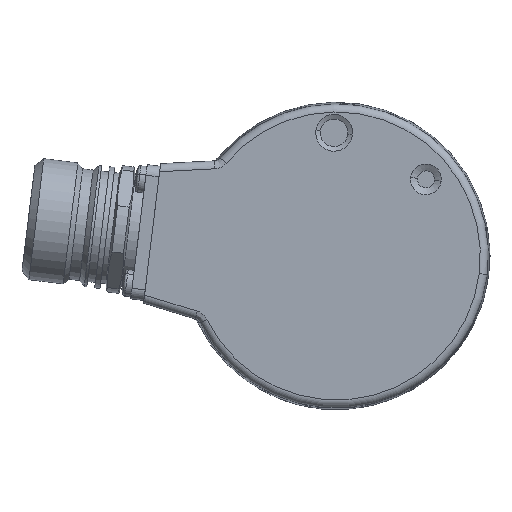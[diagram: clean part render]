
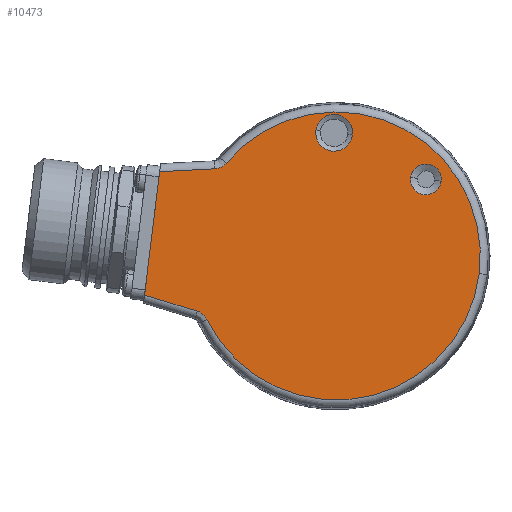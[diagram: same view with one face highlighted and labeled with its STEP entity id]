
A CAD part, left-side view. The second image highlights one B-rep face of the part: STEP entity #10473.
In plain terms, the highlighted planar face has unit normal (-1, 0, 0).
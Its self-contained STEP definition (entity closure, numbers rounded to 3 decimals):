
#4186 = VERTEX_POINT ( 'NONE', #6363 ) ;
#4374 = EDGE_CURVE ( 'NONE', #4375, #10634, #6939, .T. ) ;
#4375 = VERTEX_POINT ( 'NONE', #6934 ) ;
#4387 = VERTEX_POINT ( 'NONE', #7462 ) ;
#4388 = EDGE_CURVE ( 'NONE', #4387, #4186, #7461, .T. ) ;
#6363 = CARTESIAN_POINT ( 'NONE',  ( -19., -3.034, 22.824 ) ) ;
#6934 = CARTESIAN_POINT ( 'NONE',  ( -19., -26.97, -3.312 ) ) ;
#6935 = DIRECTION ( 'NONE',  ( 0., -0.993, -0.122 ) ) ;
#6936 = DIRECTION ( 'NONE',  ( -1., 0., 0. ) ) ;
#6937 = CARTESIAN_POINT ( 'NONE',  ( -19., 0., 0. ) ) ;
#6938 = AXIS2_PLACEMENT_3D ( 'NONE', #6937, #6936, #6935 ) ;
#6939 = CIRCLE ( 'NONE', #6938, 27.173 ) ;
#7457 = DIRECTION ( 'NONE',  ( 0., -0.993, -0.122 ) ) ;
#7458 = DIRECTION ( 'NONE',  ( 1., 0., 0. ) ) ;
#7459 = CARTESIAN_POINT ( 'NONE',  ( -19., 0.406, 23.246 ) ) ;
#7460 = AXIS2_PLACEMENT_3D ( 'NONE', #7459, #7458, #7457 ) ;
#7461 = CIRCLE ( 'NONE', #7460, 3.466 ) ;
#7462 = CARTESIAN_POINT ( 'NONE',  ( -19., 3.846, 23.669 ) ) ;
#10407 = VERTEX_POINT ( 'NONE', #13825 ) ;
#10432 = VERTEX_POINT ( 'NONE', #13906 ) ;
#10434 = EDGE_CURVE ( 'NONE', #10440, #10432, #13958, .T. ) ;
#10440 = VERTEX_POINT ( 'NONE', #13973 ) ;
#10444 = EDGE_CURVE ( 'NONE', #4186, #4387, #14011, .T. ) ;
#10445 = ORIENTED_EDGE ( 'NONE', *, *, #10457, .F. ) ;
#10446 = ORIENTED_EDGE ( 'NONE', *, *, #10434, .T. ) ;
#10447 = ORIENTED_EDGE ( 'NONE', *, *, #10472, .T. ) ;
#10448 = EDGE_LOOP ( 'NONE', ( #10449, #10450 ) ) ;
#10449 = ORIENTED_EDGE ( 'NONE', *, *, #4388, .T. ) ;
#10450 = ORIENTED_EDGE ( 'NONE', *, *, #10444, .T. ) ;
#10451 = EDGE_LOOP ( 'NONE', ( #10445, #10446, #10643, #10644, #10513, #10514, #10648 ) ) ;
#10457 = EDGE_CURVE ( 'NONE', #10440, #10634, #14002, .T. ) ;
#10472 = EDGE_CURVE ( 'NONE', #10623, #10407, #14060, .T. ) ;
#10473 = ADVANCED_FACE ( 'NONE', ( #14050, #14049, #14048 ), #14090, .F. ) ;
#10474 = EDGE_LOOP ( 'NONE', ( #10475, #10447 ) ) ;
#10475 = ORIENTED_EDGE ( 'NONE', *, *, #10612, .T. ) ;
#10513 = ORIENTED_EDGE ( 'NONE', *, *, #10693, .F. ) ;
#10514 = ORIENTED_EDGE ( 'NONE', *, *, #10575, .T. ) ;
#10562 = EDGE_CURVE ( 'NONE', #10563, #10432, #14476, .T. ) ;
#10563 = VERTEX_POINT ( 'NONE', #14525 ) ;
#10575 = EDGE_CURVE ( 'NONE', #10691, #4375, #14548, .T. ) ;
#10612 = EDGE_CURVE ( 'NONE', #10407, #10623, #14714, .T. ) ;
#10623 = VERTEX_POINT ( 'NONE', #14698 ) ;
#10634 = VERTEX_POINT ( 'NONE', #14768 ) ;
#10643 = ORIENTED_EDGE ( 'NONE', *, *, #10562, .F. ) ;
#10644 = ORIENTED_EDGE ( 'NONE', *, *, #10685, .T. ) ;
#10648 = ORIENTED_EDGE ( 'NONE', *, *, #4374, .T. ) ;
#10685 = EDGE_CURVE ( 'NONE', #10563, #10702, #14867, .T. ) ;
#10691 = VERTEX_POINT ( 'NONE', #14903 ) ;
#10693 = EDGE_CURVE ( 'NONE', #10691, #10702, #14902, .T. ) ;
#10702 = VERTEX_POINT ( 'NONE', #15111 ) ;
#13825 = CARTESIAN_POINT ( 'NONE',  ( -19., -14.042, 14.804 ) ) ;
#13906 = CARTESIAN_POINT ( 'NONE',  ( -19., 33.31, 15.905 ) ) ;
#13950 = DIRECTION ( 'NONE',  ( 0., 0.999, -0.052 ) ) ;
#13951 = VECTOR ( 'NONE', #13950, 1000. ) ;
#13952 = CARTESIAN_POINT ( 'NONE',  ( -19., 33.046, 15.919 ) ) ;
#13958 = LINE ( 'NONE', #13952, #13951 ) ;
#13973 = CARTESIAN_POINT ( 'NONE',  ( -19., 22.914, 16.45 ) ) ;
#13987 = CARTESIAN_POINT ( 'NONE',  ( -19., 20.777, 17.512 ) ) ;
#13988 = CARTESIAN_POINT ( 'NONE',  ( -19., 20.91, 17.355 ) ) ;
#13989 = CARTESIAN_POINT ( 'NONE',  ( -19., 21.056, 17.213 ) ) ;
#13990 = CARTESIAN_POINT ( 'NONE',  ( -19., 21.376, 16.962 ) ) ;
#13991 = CARTESIAN_POINT ( 'NONE',  ( -19., 21.552, 16.851 ) ) ;
#13992 = CARTESIAN_POINT ( 'NONE',  ( -19., 21.917, 16.669 ) ) ;
#13993 = CARTESIAN_POINT ( 'NONE',  ( -19., 22.108, 16.597 ) ) ;
#13994 = CARTESIAN_POINT ( 'NONE',  ( -19., 22.503, 16.493 ) ) ;
#13995 = CARTESIAN_POINT ( 'NONE',  ( -19., 22.708, 16.461 ) ) ;
#13996 = CARTESIAN_POINT ( 'NONE',  ( -19., 22.914, 16.45 ) ) ;
#14002 = B_SPLINE_CURVE_WITH_KNOTS ( 'NONE', 3,
 ( #13996, #13995, #13994, #13993, #13992, #13991, #13990, #13989, #13988, #13987 ),
 .UNSPECIFIED., .F., .F.,
 ( 4, 2, 2, 2, 4 ),
 ( 0., 0.001, 0.001, 0.002, 0.002 ),
 .UNSPECIFIED. ) ;
#14003 = DIRECTION ( 'NONE',  ( 0., -0.993, -0.122 ) ) ;
#14004 = DIRECTION ( 'NONE',  ( 1., 0., 0. ) ) ;
#14005 = CARTESIAN_POINT ( 'NONE',  ( -19., 0.406, 23.246 ) ) ;
#14006 = AXIS2_PLACEMENT_3D ( 'NONE', #14005, #14004, #14003 ) ;
#14011 = CIRCLE ( 'NONE', #14006, 3.466 ) ;
#14048 = FACE_OUTER_BOUND ( 'NONE', #10451, .T. ) ;
#14049 = FACE_BOUND ( 'NONE', #10448, .T. ) ;
#14050 = FACE_BOUND ( 'NONE', #10474, .T. ) ;
#14051 = DIRECTION ( 'NONE',  ( 0., -0.993, -0.122 ) ) ;
#14052 = DIRECTION ( 'NONE',  ( 1., 0., 0. ) ) ;
#14053 = CARTESIAN_POINT ( 'NONE',  ( -19., -16.919, 14.45 ) ) ;
#14054 = AXIS2_PLACEMENT_3D ( 'NONE', #14053, #14052, #14051 ) ;
#14060 = CIRCLE ( 'NONE', #14054, 2.899 ) ;
#14084 = DIRECTION ( 'NONE',  ( 0., -0.993, -0.122 ) ) ;
#14085 = DIRECTION ( 'NONE',  ( 1., 0., 0. ) ) ;
#14086 = CARTESIAN_POINT ( 'NONE',  ( -19., 0., 0. ) ) ;
#14087 = AXIS2_PLACEMENT_3D ( 'NONE', #14086, #14085, #14084 ) ;
#14090 = PLANE ( 'NONE',  #14087 ) ;
#14474 = VECTOR ( 'NONE', #14526, 1000. ) ;
#14475 = CARTESIAN_POINT ( 'NONE',  ( -19., 36.354, -8.886 ) ) ;
#14476 = LINE ( 'NONE', #14475, #14474 ) ;
#14525 = CARTESIAN_POINT ( 'NONE',  ( -19., 36.168, -7.374 ) ) ;
#14526 = DIRECTION ( 'NONE',  ( 0., -0.122, 0.993 ) ) ;
#14539 = DIRECTION ( 'NONE',  ( 0., -0.993, -0.122 ) ) ;
#14540 = DIRECTION ( 'NONE',  ( -1., 0., 0. ) ) ;
#14541 = CARTESIAN_POINT ( 'NONE',  ( -19., 0., 0. ) ) ;
#14542 = AXIS2_PLACEMENT_3D ( 'NONE', #14541, #14540, #14539 ) ;
#14548 = CIRCLE ( 'NONE', #14542, 27.173 ) ;
#14698 = CARTESIAN_POINT ( 'NONE',  ( -19., -19.796, 14.097 ) ) ;
#14710 = DIRECTION ( 'NONE',  ( 0., -0.993, -0.122 ) ) ;
#14711 = DIRECTION ( 'NONE',  ( 1., 0., 0. ) ) ;
#14712 = CARTESIAN_POINT ( 'NONE',  ( -19., -16.919, 14.45 ) ) ;
#14713 = AXIS2_PLACEMENT_3D ( 'NONE', #14712, #14711, #14710 ) ;
#14714 = CIRCLE ( 'NONE', #14713, 2.899 ) ;
#14768 = CARTESIAN_POINT ( 'NONE',  ( -19., 20.777, 17.512 ) ) ;
#14864 = DIRECTION ( 'NONE',  ( 0., -0.956, -0.292 ) ) ;
#14865 = VECTOR ( 'NONE', #14864, 1000. ) ;
#14866 = CARTESIAN_POINT ( 'NONE',  ( -19., 25.556, -10.618 ) ) ;
#14867 = LINE ( 'NONE', #14866, #14865 ) ;
#14902 = B_SPLINE_CURVE_WITH_KNOTS ( 'NONE', 3,
 ( #15070, #15069, #15068, #15067, #15066, #15065, #15064, #15063, #15062, #15061 ),
 .UNSPECIFIED., .F., .F.,
 ( 4, 2, 2, 2, 4 ),
 ( 0., 0.001, 0.001, 0.002, 0.002 ),
 .UNSPECIFIED. ) ;
#14903 = CARTESIAN_POINT ( 'NONE',  ( -19., 24.396, -11.966 ) ) ;
#15061 = CARTESIAN_POINT ( 'NONE',  ( -19., 26.213, -10.418 ) ) ;
#15062 = CARTESIAN_POINT ( 'NONE',  ( -19., 26.016, -10.478 ) ) ;
#15063 = CARTESIAN_POINT ( 'NONE',  ( -19., 25.828, -10.557 ) ) ;
#15064 = CARTESIAN_POINT ( 'NONE',  ( -19., 25.471, -10.753 ) ) ;
#15065 = CARTESIAN_POINT ( 'NONE',  ( -19., 25.3, -10.87 ) ) ;
#15066 = CARTESIAN_POINT ( 'NONE',  ( -19., 24.989, -11.135 ) ) ;
#15067 = CARTESIAN_POINT ( 'NONE',  ( -19., 24.848, -11.282 ) ) ;
#15068 = CARTESIAN_POINT ( 'NONE',  ( -19., 24.597, -11.605 ) ) ;
#15069 = CARTESIAN_POINT ( 'NONE',  ( -19., 24.487, -11.781 ) ) ;
#15070 = CARTESIAN_POINT ( 'NONE',  ( -19., 24.396, -11.966 ) ) ;
#15111 = CARTESIAN_POINT ( 'NONE',  ( -19., 26.213, -10.418 ) ) ;
